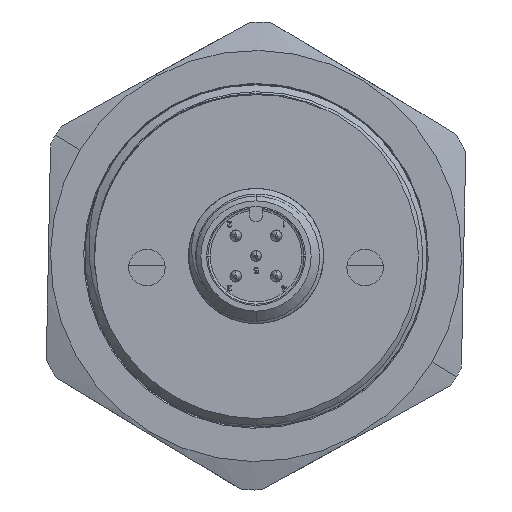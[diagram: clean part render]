
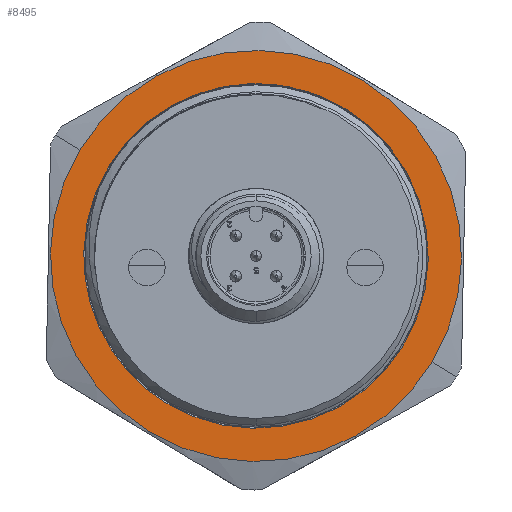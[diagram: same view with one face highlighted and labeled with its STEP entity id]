
A CAD part, front view. The second image highlights one B-rep face of the part: STEP entity #8495.
In plain terms, the highlighted planar face has unit normal (0, -1, 0).
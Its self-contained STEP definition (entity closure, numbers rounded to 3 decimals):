
#630 = CIRCLE ( 'NONE', #58656, 15. ) ;
#1896 = CARTESIAN_POINT ( 'NONE',  ( 0., -2.5, 0. ) ) ;
#2761 = EDGE_CURVE ( 'NONE', #15871, #81241, #93769, .T. ) ;
#4335 = FACE_BOUND ( 'NONE', #47380, .T. ) ;
#6438 = EDGE_CURVE ( 'NONE', #91800, #29071, #83473, .T. ) ;
#6585 = DIRECTION ( 'NONE',  ( 0., 1., 0. ) ) ;
#7795 = AXIS2_PLACEMENT_3D ( 'NONE', #52480, #6585, #41628 ) ;
#7848 = EDGE_CURVE ( 'NONE', #81241, #15871, #15880, .T. ) ;
#8376 = CARTESIAN_POINT ( 'NONE',  ( 0., -2.5, 0. ) ) ;
#8495 = ADVANCED_FACE ( 'NONE', ( #4335, #36680 ), #75065, .T. ) ;
#8667 = VERTEX_POINT ( 'NONE', #67963 ) ;
#9202 = CIRCLE ( 'NONE', #65667, 15. ) ;
#10134 = DIRECTION ( 'NONE',  ( 1., 0., 0. ) ) ;
#14663 = CARTESIAN_POINT ( 'NONE',  ( 0., -2.5, 15. ) ) ;
#15730 = ORIENTED_EDGE ( 'NONE', *, *, #2761, .F. ) ;
#15871 = VERTEX_POINT ( 'NONE', #57121 ) ;
#15880 = CIRCLE ( 'NONE', #7795, 17.9 ) ;
#17736 = DIRECTION ( 'NONE',  ( 0., 1., 0. ) ) ;
#21779 = VERTEX_POINT ( 'NONE', #70365 ) ;
#27650 = DIRECTION ( 'NONE',  ( 1., 0., 0. ) ) ;
#28515 = DIRECTION ( 'NONE',  ( 0., 1., 0. ) ) ;
#29071 = VERTEX_POINT ( 'NONE', #14663 ) ;
#29144 = CARTESIAN_POINT ( 'NONE',  ( 0., -2.5, 0. ) ) ;
#32754 = DIRECTION ( 'NONE',  ( 1., 0., 0. ) ) ;
#34928 = AXIS2_PLACEMENT_3D ( 'NONE', #8376, #94293, #39207 ) ;
#36680 = FACE_OUTER_BOUND ( 'NONE', #97254, .T. ) ;
#36974 = ORIENTED_EDGE ( 'NONE', *, *, #6438, .T. ) ;
#37236 = ORIENTED_EDGE ( 'NONE', *, *, #69517, .T. ) ;
#39207 = DIRECTION ( 'NONE',  ( 1., 0., 0. ) ) ;
#40833 = DIRECTION ( 'NONE',  ( 0., 1., 0. ) ) ;
#40835 = CARTESIAN_POINT ( 'NONE',  ( 17.9, -2.5, 0. ) ) ;
#41628 = DIRECTION ( 'NONE',  ( -1., 0., 0. ) ) ;
#47380 = EDGE_LOOP ( 'NONE', ( #37236, #36974, #50686, #84612 ) ) ;
#49645 = CARTESIAN_POINT ( 'NONE',  ( 0., -2.5, 0. ) ) ;
#50492 = CARTESIAN_POINT ( 'NONE',  ( 0., -2.5, 0. ) ) ;
#50686 = ORIENTED_EDGE ( 'NONE', *, *, #85729, .T. ) ;
#52480 = CARTESIAN_POINT ( 'NONE',  ( 0., -2.5, 0. ) ) ;
#55435 = ORIENTED_EDGE ( 'NONE', *, *, #7848, .F. ) ;
#57121 = CARTESIAN_POINT ( 'NONE',  ( -17.9, -2.5, 0. ) ) ;
#58656 = AXIS2_PLACEMENT_3D ( 'NONE', #50492, #67169, #81413 ) ;
#59882 = EDGE_CURVE ( 'NONE', #8667, #21779, #63906, .T. ) ;
#63182 = CARTESIAN_POINT ( 'NONE',  ( 0., -2.5, 0. ) ) ;
#63906 = CIRCLE ( 'NONE', #34928, 15. ) ;
#65328 = DIRECTION ( 'NONE',  ( -1., 0., 0. ) ) ;
#65667 = AXIS2_PLACEMENT_3D ( 'NONE', #63182, #17736, #10134 ) ;
#67169 = DIRECTION ( 'NONE',  ( 0., 1., 0. ) ) ;
#67963 = CARTESIAN_POINT ( 'NONE',  ( 0., -2.5, -15. ) ) ;
#69517 = EDGE_CURVE ( 'NONE', #21779, #91800, #9202, .T. ) ;
#70365 = CARTESIAN_POINT ( 'NONE',  ( -13.013, -2.5, -7.461 ) ) ;
#75065 = PLANE ( 'NONE',  #82739 ) ;
#81241 = VERTEX_POINT ( 'NONE', #40835 ) ;
#81413 = DIRECTION ( 'NONE',  ( 1., 0., 0. ) ) ;
#82739 = AXIS2_PLACEMENT_3D ( 'NONE', #29144, #90791, #27650 ) ;
#82834 = CARTESIAN_POINT ( 'NONE',  ( -15., -2.5, 0. ) ) ;
#83473 = CIRCLE ( 'NONE', #88400, 15. ) ;
#84000 = AXIS2_PLACEMENT_3D ( 'NONE', #49645, #28515, #65328 ) ;
#84612 = ORIENTED_EDGE ( 'NONE', *, *, #59882, .T. ) ;
#85729 = EDGE_CURVE ( 'NONE', #29071, #8667, #630, .T. ) ;
#88400 = AXIS2_PLACEMENT_3D ( 'NONE', #1896, #40833, #32754 ) ;
#90791 = DIRECTION ( 'NONE',  ( 0., -1., 0. ) ) ;
#91800 = VERTEX_POINT ( 'NONE', #82834 ) ;
#93769 = CIRCLE ( 'NONE', #84000, 17.9 ) ;
#94293 = DIRECTION ( 'NONE',  ( 0., 1., 0. ) ) ;
#97254 = EDGE_LOOP ( 'NONE', ( #15730, #55435 ) ) ;
